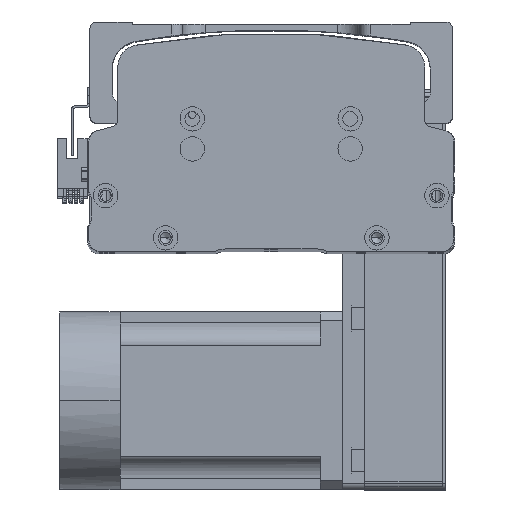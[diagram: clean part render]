
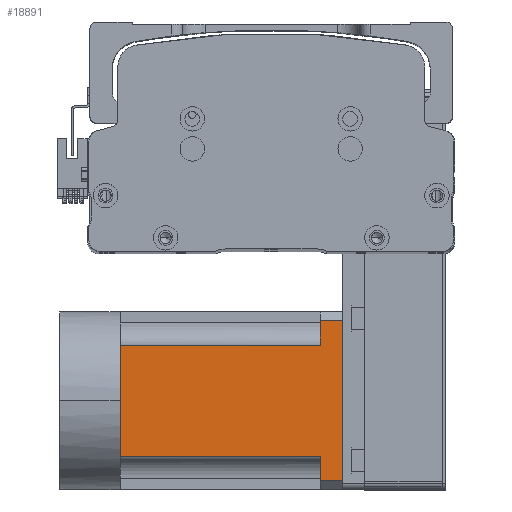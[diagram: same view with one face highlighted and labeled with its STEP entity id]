
A CAD part, top view. The second image highlights one B-rep face of the part: STEP entity #18891.
In plain terms, the highlighted planar face has unit normal (0, 0, 1) as drawn and (0, 0, -1) by its records, which use the part's own axes.
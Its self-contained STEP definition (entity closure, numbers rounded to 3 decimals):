
#1017 = VECTOR ( 'NONE', #14961, 1000. ) ;
#2331 = EDGE_CURVE ( 'NONE', #53406, #3886, #25885, .T. ) ;
#2955 = ORIENTED_EDGE ( 'NONE', *, *, #23307, .T. ) ;
#3389 = DIRECTION ( 'NONE',  ( 0., -1., 0. ) ) ;
#3682 = CARTESIAN_POINT ( 'NONE',  ( 36., 100., -40. ) ) ;
#3886 = VERTEX_POINT ( 'NONE', #14200 ) ;
#4453 = CARTESIAN_POINT ( 'NONE',  ( 25., -27., -40. ) ) ;
#5212 = CARTESIAN_POINT ( 'NONE',  ( -36., 90., -40. ) ) ;
#5470 = FACE_OUTER_BOUND ( 'NONE', #8502, .T. ) ;
#6208 = VECTOR ( 'NONE', #41428, 1000. ) ;
#6890 = CARTESIAN_POINT ( 'NONE',  ( -40., 90., -40. ) ) ;
#8142 = VECTOR ( 'NONE', #3389, 1000. ) ;
#8502 = EDGE_LOOP ( 'NONE', ( #46909, #12970, #40683, #33963, #2955, #14793, #58031, #23867, #30107 ) ) ;
#8558 = EDGE_CURVE ( 'NONE', #60450, #10287, #31567, .T. ) ;
#9479 = CARTESIAN_POINT ( 'NONE',  ( 25., 90., -40. ) ) ;
#10287 = VERTEX_POINT ( 'NONE', #51521 ) ;
#12970 = ORIENTED_EDGE ( 'NONE', *, *, #15866, .T. ) ;
#14200 = CARTESIAN_POINT ( 'NONE',  ( 25., 0., -40. ) ) ;
#14793 = ORIENTED_EDGE ( 'NONE', *, *, #44102, .T. ) ;
#14961 = DIRECTION ( 'NONE',  ( 0., 1., 0. ) ) ;
#15866 = EDGE_CURVE ( 'NONE', #40809, #40972, #36484, .T. ) ;
#16055 = LINE ( 'NONE', #18894, #41430 ) ;
#16520 = CARTESIAN_POINT ( 'NONE',  ( -25., -27., -40. ) ) ;
#18717 = CARTESIAN_POINT ( 'NONE',  ( -40., 90., -40. ) ) ;
#18891 = ADVANCED_FACE ( 'NONE', ( #5470 ), #27322, .T. ) ;
#18894 = CARTESIAN_POINT ( 'NONE',  ( -40., 0., -40. ) ) ;
#19182 = LINE ( 'NONE', #18717, #31836 ) ;
#19505 = CARTESIAN_POINT ( 'NONE',  ( 36., 90., -40. ) ) ;
#20793 = CARTESIAN_POINT ( 'NONE',  ( -36., 100., -40. ) ) ;
#21097 = DIRECTION ( 'NONE',  ( -1., 0., 0. ) ) ;
#21154 = CARTESIAN_POINT ( 'NONE',  ( -40., 100., -40. ) ) ;
#22754 = DIRECTION ( 'NONE',  ( -1., 0., 0. ) ) ;
#23307 = EDGE_CURVE ( 'NONE', #3886, #51107, #16055, .T. ) ;
#23867 = ORIENTED_EDGE ( 'NONE', *, *, #26274, .T. ) ;
#24166 = VERTEX_POINT ( 'NONE', #5212 ) ;
#25388 = DIRECTION ( 'NONE',  ( -1., 0., 0. ) ) ;
#25885 = LINE ( 'NONE', #4453, #49647 ) ;
#26093 = CARTESIAN_POINT ( 'NONE',  ( 0., 0., -40. ) ) ;
#26274 = EDGE_CURVE ( 'NONE', #10287, #24166, #19182, .T. ) ;
#27322 = PLANE ( 'NONE',  #50996 ) ;
#30072 = VECTOR ( 'NONE', #25388, 1000. ) ;
#30107 = ORIENTED_EDGE ( 'NONE', *, *, #43917, .T. ) ;
#30954 = VERTEX_POINT ( 'NONE', #20793 ) ;
#31567 = LINE ( 'NONE', #16520, #6208 ) ;
#31836 = VECTOR ( 'NONE', #56765, 1000. ) ;
#33963 = ORIENTED_EDGE ( 'NONE', *, *, #2331, .T. ) ;
#35109 = VECTOR ( 'NONE', #21097, 1000. ) ;
#36484 = LINE ( 'NONE', #60620, #8142 ) ;
#37591 = LINE ( 'NONE', #43459, #1017 ) ;
#39496 = CARTESIAN_POINT ( 'NONE',  ( -25., 0., -40. ) ) ;
#39734 = CARTESIAN_POINT ( 'NONE',  ( -40., 0., -40. ) ) ;
#40683 = ORIENTED_EDGE ( 'NONE', *, *, #46495, .T. ) ;
#40809 = VERTEX_POINT ( 'NONE', #3682 ) ;
#40972 = VERTEX_POINT ( 'NONE', #19505 ) ;
#41428 = DIRECTION ( 'NONE',  ( 0., 1., 0. ) ) ;
#41430 = VECTOR ( 'NONE', #52168, 1000. ) ;
#41671 = CARTESIAN_POINT ( 'NONE',  ( -40., -27., -40. ) ) ;
#42872 = VECTOR ( 'NONE', #54394, 1000. ) ;
#43459 = CARTESIAN_POINT ( 'NONE',  ( -36., -27., -40. ) ) ;
#43917 = EDGE_CURVE ( 'NONE', #24166, #30954, #37591, .T. ) ;
#44102 = EDGE_CURVE ( 'NONE', #51107, #60450, #55406, .T. ) ;
#46495 = EDGE_CURVE ( 'NONE', #40972, #53406, #60383, .T. ) ;
#46909 = ORIENTED_EDGE ( 'NONE', *, *, #53612, .F. ) ;
#49647 = VECTOR ( 'NONE', #61474, 1000. ) ;
#50996 = AXIS2_PLACEMENT_3D ( 'NONE', #41671, #51205, #22754 ) ;
#51107 = VERTEX_POINT ( 'NONE', #26093 ) ;
#51205 = DIRECTION ( 'NONE',  ( 0., 0., -1. ) ) ;
#51521 = CARTESIAN_POINT ( 'NONE',  ( -25., 90., -40. ) ) ;
#52168 = DIRECTION ( 'NONE',  ( -1., 0., 0. ) ) ;
#53406 = VERTEX_POINT ( 'NONE', #9479 ) ;
#53612 = EDGE_CURVE ( 'NONE', #40809, #30954, #55547, .T. ) ;
#54394 = DIRECTION ( 'NONE',  ( -1., 0., 0. ) ) ;
#55406 = LINE ( 'NONE', #39734, #30072 ) ;
#55547 = LINE ( 'NONE', #21154, #42872 ) ;
#56765 = DIRECTION ( 'NONE',  ( -1., 0., 0. ) ) ;
#58031 = ORIENTED_EDGE ( 'NONE', *, *, #8558, .T. ) ;
#60383 = LINE ( 'NONE', #6890, #35109 ) ;
#60450 = VERTEX_POINT ( 'NONE', #39496 ) ;
#60620 = CARTESIAN_POINT ( 'NONE',  ( 36., -27., -40. ) ) ;
#61474 = DIRECTION ( 'NONE',  ( 0., -1., 0. ) ) ;
